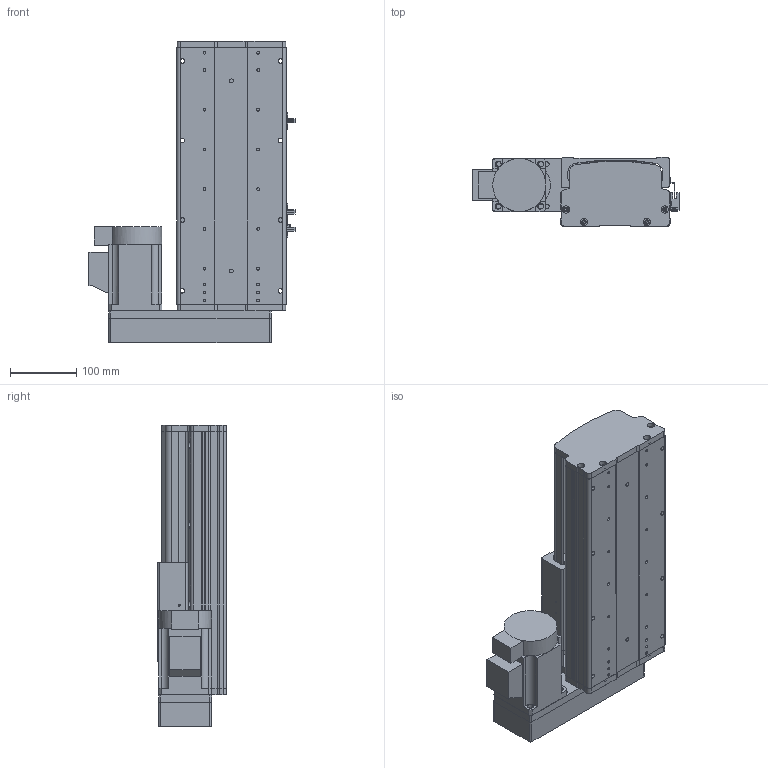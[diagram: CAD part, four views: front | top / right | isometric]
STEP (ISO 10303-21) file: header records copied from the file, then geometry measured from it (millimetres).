
FILE_DESCRIPTION (( 'STEP AP214' ), '1' );
FILE_NAME ('KSD165S-S150-MR-CM .STEP', '2017-10-17T09:16:25', ( '微软用户' ), ( '微软中国' ), 'SwSTEP 2.0', 'SolidWorks 2014', '' );
FILE_SCHEMA (( 'AUTOMOTIVE_DESIGN' ));
Length unit declared in the file: millimetre
Products named in the file (16): KSD165耀郪-佪裝-滅袉菜-3 -; KSD165耀郪-佪裝-滅袉菜-1; 覜茼え68遵圉猾敕; U倰嫖萇假蚾璃; U倰嫖萇EEㄜSX672; KSD165耀郪-綴傷啣1; KSD165S-S150-MR-CM ; 拸秶雄ん750W侜督萇儂; KSD165模组-丝杆上下左右折前端板; HTPA26S5M250-A-H8丝杆用(内径14）; HTPA26S5M250-A-H8 750W萇儂蚚; 165宽模组马达安装板连板左右折丝杆; 165宽模组保护罩左右折; KSD165模组-防尘盖1-150行程-最新版; KSD165模组底板-150行程-最新; KSD165模组-丝杆滑动座-最新版
Assembly tree (19 placements, depth 2):
  KSD165S-S150-MR-CM 
    KSD165耀郪-綴傷啣1
    U倰嫖萇EEㄜSX672  x3
    U倰嫖萇假蚾璃  x3
    覜茼え68遵圉猾敕
    KSD165耀郪-佪裝-滅袉菜-1
    KSD165耀郪-佪裝-滅袉菜-3 -
    KSD165模组-丝杆滑动座-最新版
    KSD165模组底板-150行程-最新
    KSD165模组-防尘盖1-150行程-最新版
    165宽模组保护罩左右折
    165宽模组马达安装板连板左右折丝杆
    HTPA26S5M250-A-H8 750W萇儂蚚
    HTPA26S5M250-A-H8丝杆用(内径14）
    KSD165模组-丝杆上下左右折前端板
    拸秶雄ん750W侜督萇儂
Bounding box: 311.2 x 104 x 455.5 mm (x, y, z)
Volume: 4033205.5 mm3; surface area: 925914 mm2
Topology: 20 solids, 20 shells, 1737 faces, 4916 edges, 3211 vertices
Faces by surface type: cylinder 1103, plane 533, cone 101
Entity records: 56243 total; most frequent: CARTESIAN_POINT 11755, DIRECTION 9135, ORIENTED_EDGE 8520, EDGE_CURVE 4260, AXIS2_PLACEMENT_3D 3567, VERTEX_POINT 2803, CIRCLE 2028, VECTOR 2001
